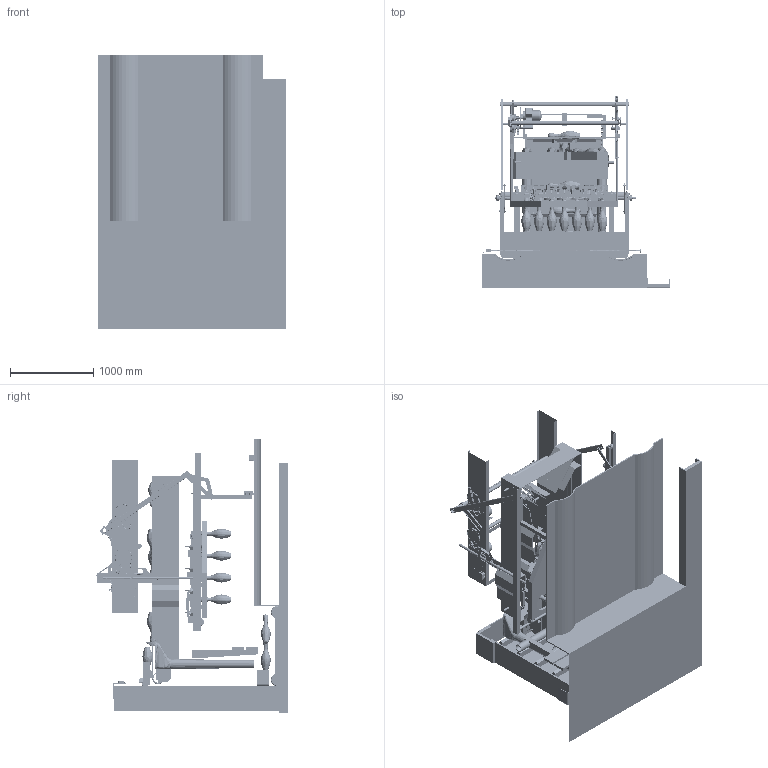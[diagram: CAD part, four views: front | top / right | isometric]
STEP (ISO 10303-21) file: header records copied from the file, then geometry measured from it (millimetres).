
FILE_DESCRIPTION (( 'STEP AP214' ), '1' );
FILE_NAME ('requilleur balayage.STEP', '2014-06-03T06:08:57', ( '' ), ( '' ), 'SwSTEP 2.0', 'SolidWorks 2010', '' );
FILE_SCHEMA (( 'AUTOMOTIVE_DESIGN' ));
Length unit declared in the file: millimetre
Products named in the file (165): reflecteur; detecteur quilles; PISTE longue; pare choc boule; cellule; detecteur boules; equerre tapis; rouleau; tapis; tapis de fosse; table de pose_saisir quilles; detecteur raquette; pignon de verrouillage; Cremaillere de commande; noyau; soneloide; raquette; doigt maintien quille; porte quille3; support de quille; levier basculement 3B; levier basculement 1; SE_barre1; SE_barre0; levier basculement droit; SE_arbre moteur; barre commande 1; levier basculement 3; barre commande 2; SE_barre3; table ; levier commande capteur; equerre ressort; SE_barre2; barre commande 3; axe poulies centrales; poulies centrales; Courroie 12x1390; poulies arrivées; position quilles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
Assembly tree (548 placements, depth 5):
  position quilles
  bati commande table
  bati rateau
  requilleur balayage
    QUILLE2  x10
    tapis de fosse
      QUILLE2  x2
      equerre tapis  x2
      rouleau  x2
      pare choc boule
      tapis
    commande de table haute _position haute
      SE_arbre moteur
        axe moteur
        ClavParA6748
        poulie-65
      axe pignon  table
      chaine TABLEP15haute
        Maillon externe P15.8  x24
          Axe chaine p15.8
          Flasque maillon p15.8
        Maillon interne p15,8  x23
          Flasque maillon p15.8
          Axe chaine p15.8
        contrepoids
      SE_bati table
        Capteur ABD  x3
        capteur d
          levier capteur d
          Support capteur d
          amortisseur d
          bielle capteur d
        soneloide d
        capteur C
        capteur T
        platine de guidage
          SKF - 6205 - 12,DE,NC,12_68_Default  x4
          plaque de guidage
        noyau commande 
        bati commande
      chaine P15
        Maillon interne p15,8  x25
          Flasque maillon p15.8
          Axe chaine p15.8
        Maillon externe P15.8  x25
          Axe chaine p15.8
          Flasque maillon p15.8
      SE_roue bielle table
        Roue chaine Z39_Chain wheel DIN 8192 - A 39Z 10B-1 --39SA20.0N
        arbre commande table
      SE_bielle droite table
        axe de roue
        bielle commande table
      SE_pignon chaine
        anneauext23
        axe pignon chaine
        moyeu roue dentée
        roue Z64 m3_DIN - Spur gear 3M 64T 20PA 12FW ---S64A75H50L0.2N
        ClavParC1648
        pignon chaine Z12_Chain wheel DIN 8192 - A 12Z 10B-1 --12SA20.0N
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Bounding box: 2255.78 x 2298.84 x 3285 mm (x, y, z)
Volume: 441416497.5 mm3; surface area: 78244601 mm2
Topology: 1685 solids, 1716 shells, 34777 faces, 85135 edges, 55604 vertices
Faces by surface type: cylinder 18641, plane 12163, cone 2354, torus 821, bspline 620, sphere 178
Entity records: 285967 total; most frequent: CARTESIAN_POINT 130212, DIRECTION 30524, ORIENTED_EDGE 29862, EDGE_CURVE 14931, AXIS2_PLACEMENT_3D 10912, VERTEX_POINT 9779, LINE 8700, VECTOR 8700
